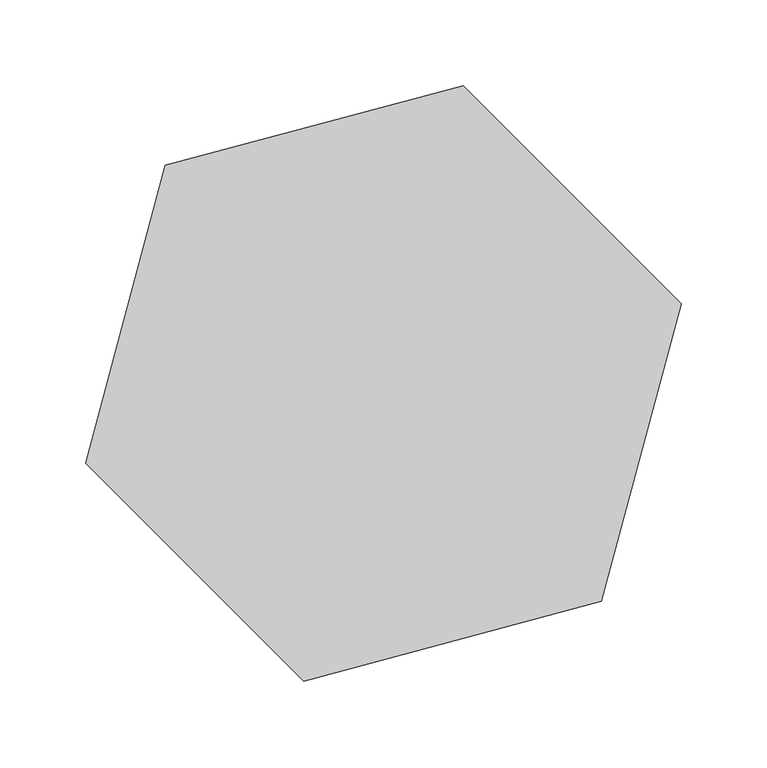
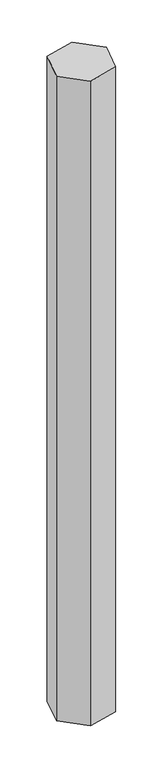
"""IFC4 building model written with IfcOpenShell, lengths in millimetres: column geometry, Семейство6 : Семейство6."""

from ifc_helpers import new_model, si_unit, origin, origin_with_axes, place, context, project, spatial, polyline, outline, extrude, source, transform, mapped, element, save


def column_fef89007(model_context):
    return source(origin(), model_context, "Body", "SweptSolid", [
        extrude(outline(polyline([(-173.8666487, -46.5874281), (-127.2792206, 127.2792206), (46.5874281, 173.8666487), (173.8666487, 46.5874281), (127.2792206, -127.2792206), (-46.5874281, -173.8666487), (-173.8666487, -46.5874281)])), origin_with_axes(), (0.0, 0.0, 1.0), 4000.0),
    ])


if __name__ == "__main__":
    model = new_model("IFC4")
    model_context = context("Model", 3, world=origin())
    ifc_project = project(units=[si_unit("LENGTHUNIT", "METRE", prefix="MILLI")], contexts=[model_context])
    site = spatial("IfcSite", under=ifc_project)
    building = spatial("IfcBuilding", under=site)
    placement = place(None, origin())
    column_shape = column_fef89007(model_context)
    element("IfcColumn", 1, ObjectType="Семейство6 : Семейство6", at=placement, inside=building, context=model_context, shape_type="MappedRepresentation", body=[
        mapped(column_shape, transform((0.0, 0.0, 0.0), x_axis=(1.0, 0.0, 0.0), y_axis=(0.0, 1.0, 0.0), z_axis=(0.0, 0.0, 1.0))),
    ])
    save(model, "model.ifc")
